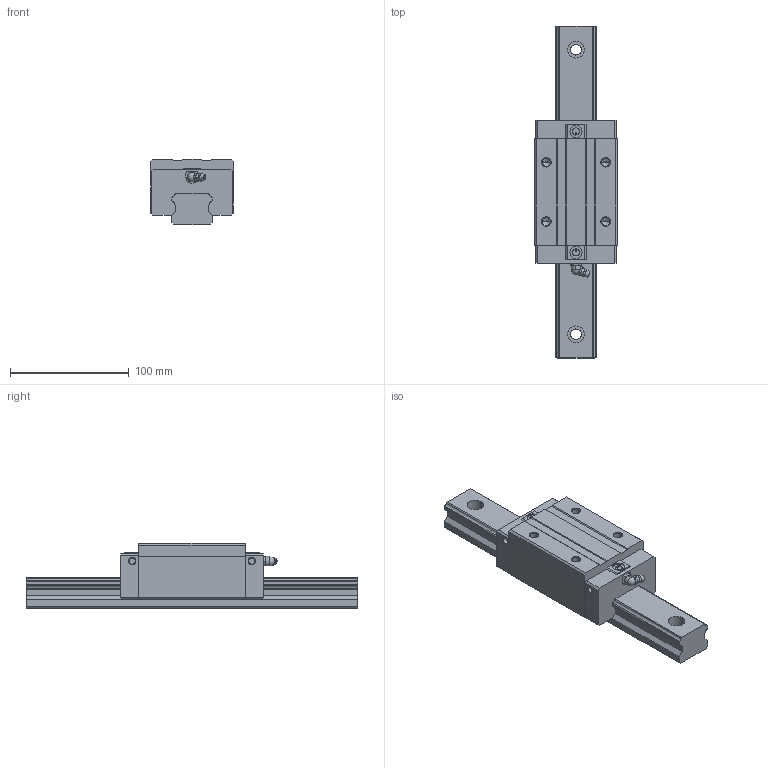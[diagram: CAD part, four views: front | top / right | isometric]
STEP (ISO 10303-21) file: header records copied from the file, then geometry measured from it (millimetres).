
FILE_DESCRIPTION((''),'1');
FILE_NAME(' ',' ',(''),(''),'ACIS Interop R16','Kubotek KeyCreator V6.5.2 (0407)',' ');
FILE_SCHEMA(('CONFIG_CONTROL_DESIGN'));
Length unit declared in the file: millimetre
Products named in the file (3): 1; 2; 3
Bounding box: 70 x 280 x 55 mm (x, y, z)
Volume: 521228 mm3; surface area: 78574.1 mm2
Topology: 3 solids, 3 shells, 232 faces, 607 edges, 391 vertices
Faces by surface type: plane 113, cylinder 74, cone 26, torus 10, sphere 7, bspline 2
Entity records: 7370 total; most frequent: CARTESIAN_POINT 1417, DIRECTION 1260, ORIENTED_EDGE 1186, EDGE_CURVE 593, AXIS2_PLACEMENT_3D 454, VERTEX_POINT 391, LINE 352, VECTOR 352
